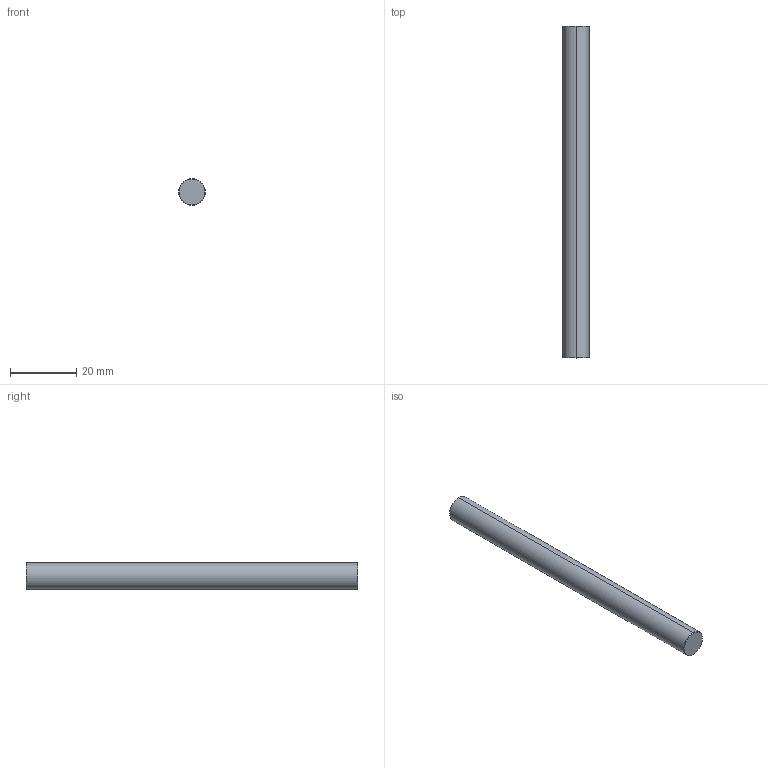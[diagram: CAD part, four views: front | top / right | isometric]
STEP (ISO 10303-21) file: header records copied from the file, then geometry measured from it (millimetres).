
FILE_DESCRIPTION (( 'STEP AP203' ), '1' );
FILE_NAME ('2100-0008-0100.STEP', '2018-02-12T21:32:04', ( '' ), ( '' ), 'SwSTEP 2.0', 'SolidWorks 2016', '' );
FILE_SCHEMA (( 'CONFIG_CONTROL_DESIGN' ));
Length unit declared in the file: millimetre
Products named in the file (1): 2100-0008-0100
Bounding box: 8 x 100 x 8 mm (x, y, z)
Volume: 5026.2 mm3; surface area: 2610.1 mm2
Topology: 1 solids, 1 shells, 8 faces, 14 edges, 8 vertices
Faces by surface type: cone 4, cylinder 2, plane 2
Entity records: 271 total; most frequent: DIRECTION 40, CARTESIAN_POINT 31, ORIENTED_EDGE 28, AXIS2_PLACEMENT_3D 17, EDGE_CURVE 14, PERSON_AND_ORGANIZATION 8, FACE_OUTER_BOUND 8, CIRCLE 8
